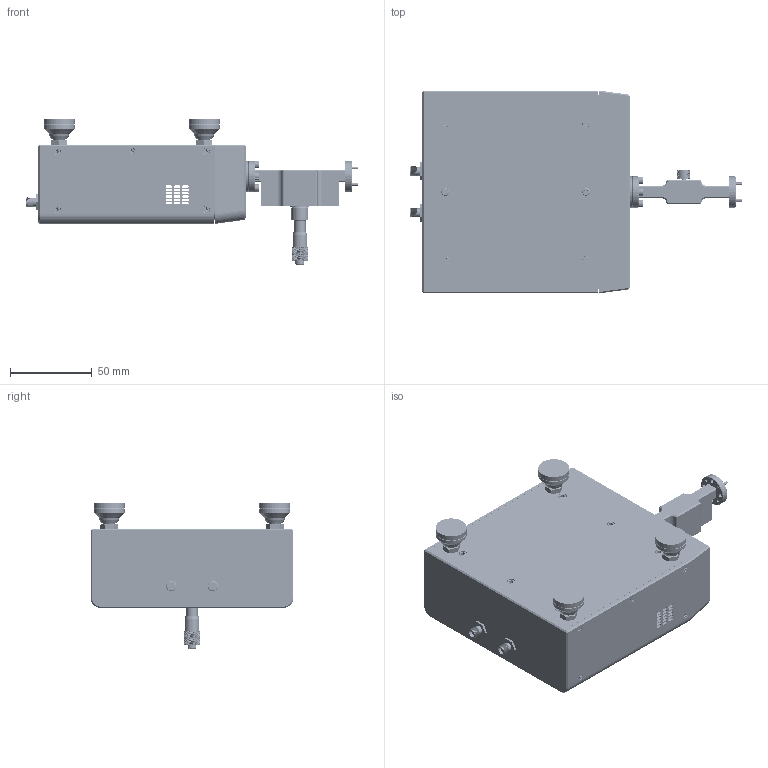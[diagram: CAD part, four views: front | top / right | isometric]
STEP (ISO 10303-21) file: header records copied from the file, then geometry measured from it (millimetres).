
FILE_DESCRIPTION (( 'STEP AP214' ), '1' );
FILE_NAME ('TR-EL-2, Defeatured, with feet.STEP', '2025-04-30T18:23:50', ( '' ), ( '' ), 'SwSTEP 2.0', 'SolidWorks 2021', '' );
FILE_SCHEMA (( 'AUTOMOTIVE_DESIGN' ));
Length unit declared in the file: inch
Products named in the file (1): TR-EL-2, Defeatured, with feet
Bounding box: 203.52 x 124.32 x 89.15 mm (x, y, z)
Volume: 292099.7 mm3; surface area: 155311.3 mm2
Topology: 55 solids, 67 shells, 8006 faces, 19106 edges, 11272 vertices
Faces by surface type: cylinder 2920, bspline 2695, plane 1649, cone 712, sphere 16, torus 14
Entity records: 847537 total; most frequent: CARTESIAN_POINT 601489, ORIENTED_EDGE 37924, DIRECTION 20711, EDGE_CURVE 18962, VERTEX_POINT 11248, EDGE_LOOP 8374, AXIS2_PLACEMENT_3D 8019, FACE_OUTER_BOUND 8006
